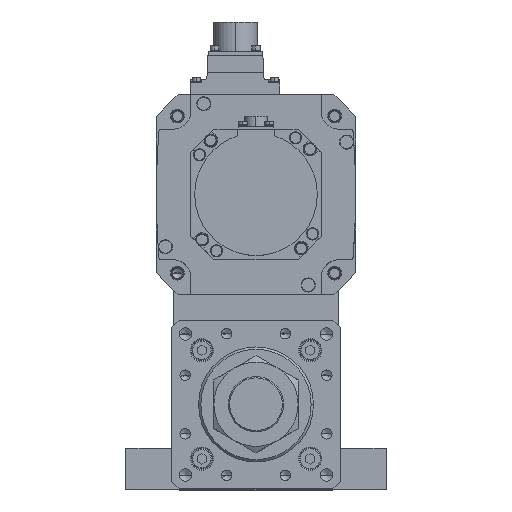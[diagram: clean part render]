
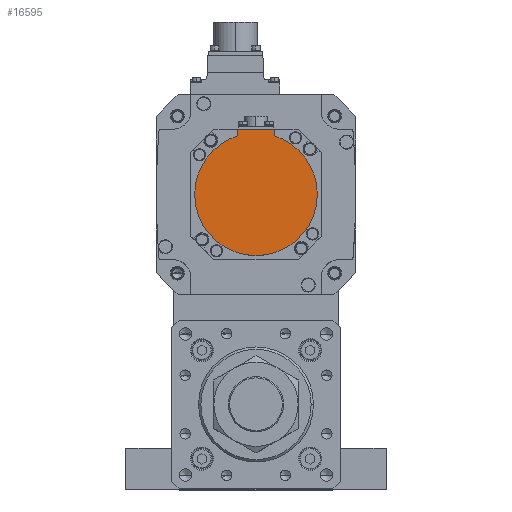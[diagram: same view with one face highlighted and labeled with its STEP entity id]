
A CAD part, top view. The second image highlights one B-rep face of the part: STEP entity #16595.
In plain terms, the highlighted planar face has unit normal (0, 0, 1) as drawn and (0, 0, -1) by its records, which use the part's own axes.
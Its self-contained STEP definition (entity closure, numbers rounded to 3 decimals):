
#441 = VERTEX_POINT ( 'NONE', #13846 ) ;
#1016 = AXIS2_PLACEMENT_3D ( 'NONE', #15559, #32321, #34720 ) ;
#3023 = EDGE_CURVE ( 'NONE', #9760, #441, #7746, .T. ) ;
#3244 = CARTESIAN_POINT ( 'NONE',  ( 12., -1.249, -132.5 ) ) ;
#3364 = CIRCLE ( 'NONE', #8136, 40. ) ;
#4304 = ORIENTED_EDGE ( 'NONE', *, *, #23902, .F. ) ;
#4627 = DIRECTION ( 'NONE',  ( 0., 1., 0. ) ) ;
#4712 = AXIS2_PLACEMENT_3D ( 'NONE', #16570, #18878, #24616 ) ;
#5162 = ORIENTED_EDGE ( 'NONE', *, *, #7131, .F. ) ;
#5298 = VECTOR ( 'NONE', #30373, 1000. ) ;
#5719 = AXIS2_PLACEMENT_3D ( 'NONE', #29287, #10038, #26895 ) ;
#7131 = EDGE_CURVE ( 'NONE', #9760, #15602, #28028, .T. ) ;
#7746 = LINE ( 'NONE', #27508, #8190 ) ;
#8136 = AXIS2_PLACEMENT_3D ( 'NONE', #9866, #34637, #10119 ) ;
#8190 = VECTOR ( 'NONE', #16378, 1000. ) ;
#9354 = VERTEX_POINT ( 'NONE', #15215 ) ;
#9502 = VERTEX_POINT ( 'NONE', #34739 ) ;
#9760 = VERTEX_POINT ( 'NONE', #22528 ) ;
#9866 = CARTESIAN_POINT ( 'NONE',  ( 0., 0., -132.5 ) ) ;
#10038 = DIRECTION ( 'NONE',  ( 0., 0., 1. ) ) ;
#10119 = DIRECTION ( 'NONE',  ( 1., 0., 0. ) ) ;
#11216 = ORIENTED_EDGE ( 'NONE', *, *, #29444, .T. ) ;
#12249 = EDGE_CURVE ( 'NONE', #15602, #9354, #25070, .T. ) ;
#12499 = FACE_OUTER_BOUND ( 'NONE', #24073, .T. ) ;
#13846 = CARTESIAN_POINT ( 'NONE',  ( -12., -42.5, -132.5 ) ) ;
#15215 = CARTESIAN_POINT ( 'NONE',  ( 40., 0., -132.5 ) ) ;
#15559 = CARTESIAN_POINT ( 'NONE',  ( 0., 0., -132.5 ) ) ;
#15602 = VERTEX_POINT ( 'NONE', #29900 ) ;
#16348 = ORIENTED_EDGE ( 'NONE', *, *, #12249, .F. ) ;
#16378 = DIRECTION ( 'NONE',  ( -1., 0., 0. ) ) ;
#16570 = CARTESIAN_POINT ( 'NONE',  ( 0., -1.249, -132.5 ) ) ;
#16595 = ADVANCED_FACE ( 'NONE', ( #12499 ), #21380, .F. ) ;
#18878 = DIRECTION ( 'NONE',  ( 0., 0., 1. ) ) ;
#19211 = LINE ( 'NONE', #23808, #26882 ) ;
#19857 = EDGE_CURVE ( 'NONE', #9354, #9502, #21333, .T. ) ;
#21333 = CIRCLE ( 'NONE', #5719, 40. ) ;
#21380 = PLANE ( 'NONE',  #4712 ) ;
#22528 = CARTESIAN_POINT ( 'NONE',  ( 12., -42.5, -132.5 ) ) ;
#23808 = CARTESIAN_POINT ( 'NONE',  ( -12., -40.329, -132.5 ) ) ;
#23902 = EDGE_CURVE ( 'NONE', #9502, #31974, #3364, .T. ) ;
#24073 = EDGE_LOOP ( 'NONE', ( #11216, #4304, #31629, #16348, #5162, #25055 ) ) ;
#24616 = DIRECTION ( 'NONE',  ( 1., 0., 0. ) ) ;
#25055 = ORIENTED_EDGE ( 'NONE', *, *, #3023, .T. ) ;
#25070 = CIRCLE ( 'NONE', #1016, 40. ) ;
#26882 = VECTOR ( 'NONE', #4627, 1000. ) ;
#26895 = DIRECTION ( 'NONE',  ( 1., 0., 0. ) ) ;
#27508 = CARTESIAN_POINT ( 'NONE',  ( 0., -42.5, -132.5 ) ) ;
#27735 = CARTESIAN_POINT ( 'NONE',  ( -12., -38.158, -132.5 ) ) ;
#28028 = LINE ( 'NONE', #3244, #5298 ) ;
#29287 = CARTESIAN_POINT ( 'NONE',  ( 0., 0., -132.5 ) ) ;
#29444 = EDGE_CURVE ( 'NONE', #441, #31974, #19211, .T. ) ;
#29900 = CARTESIAN_POINT ( 'NONE',  ( 12., -38.158, -132.5 ) ) ;
#30373 = DIRECTION ( 'NONE',  ( 0., 1., 0. ) ) ;
#31629 = ORIENTED_EDGE ( 'NONE', *, *, #19857, .F. ) ;
#31974 = VERTEX_POINT ( 'NONE', #27735 ) ;
#32321 = DIRECTION ( 'NONE',  ( 0., 0., 1. ) ) ;
#34637 = DIRECTION ( 'NONE',  ( 0., 0., 1. ) ) ;
#34720 = DIRECTION ( 'NONE',  ( 1., 0., 0. ) ) ;
#34739 = CARTESIAN_POINT ( 'NONE',  ( -40., 0., -132.5 ) ) ;
